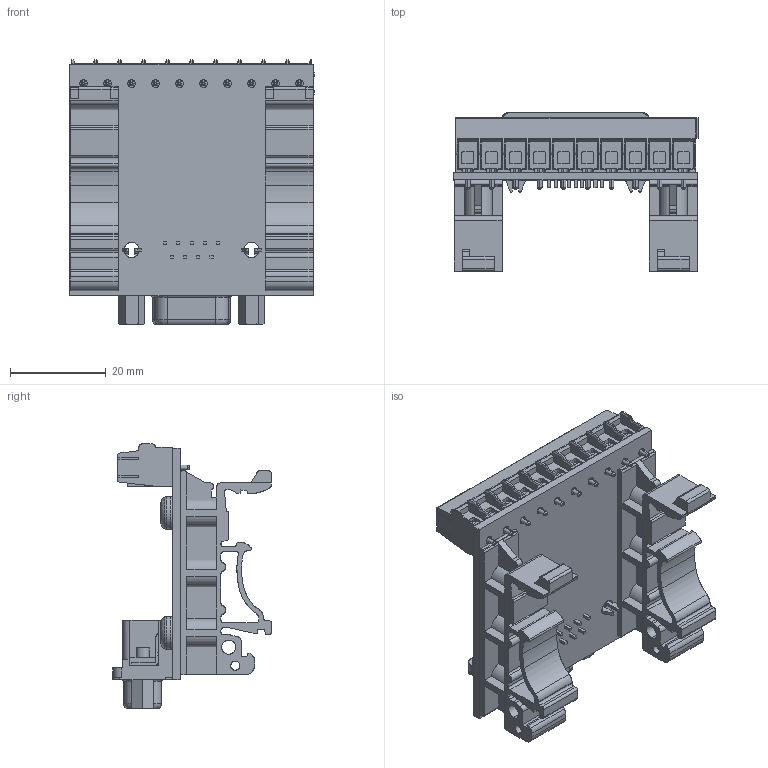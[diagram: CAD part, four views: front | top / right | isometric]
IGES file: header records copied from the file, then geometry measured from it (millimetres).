
Start section: SolidWorks IGES file using analytic representation for surfaces
Global section: file name: C:\Users\James Jarvis\Desktop\projects\screwBoards\APRS6593_DB9F_DIN_assembly.IGS; native system: SolidWorks 2012; preprocessor: SolidWorks 2012; author: James Jarvis; date: 160425.113757; units: inch
Bounding box: 50.97 x 33.09 x 55.22 mm (x, y, z)
Surface area: 20340.2 mm2 (no closed solid volume)
Topology: 0 solids, 0 shells, 1917 faces, 20274 edges, 20230 vertices
Faces by surface type: bspline 1159, revolution 758
